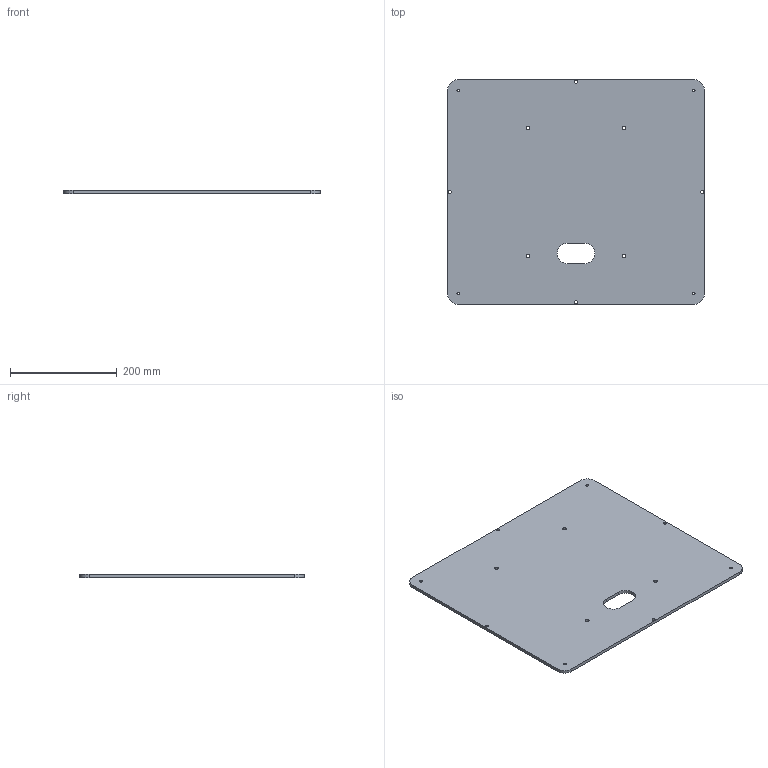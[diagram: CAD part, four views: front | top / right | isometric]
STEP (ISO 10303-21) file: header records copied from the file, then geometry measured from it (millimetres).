
FILE_DESCRIPTION(('Open CASCADE Model'),'2;1');
FILE_NAME('Open CASCADE Shape Model','2026-09-01T17:09:24',('Author'),( 'Open CASCADE'),'Open CASCADE STEP processor 7.9','Open CASCADE 7.9' ,'Unknown');
FILE_SCHEMA(('AUTOMOTIVE_DESIGN { 1 0 10303 214 1 1 1 1 }'));
Length unit declared in the file: millimetre
Products named in the file (1): Open CASCADE STEP translator 7.9 2
Bounding box: 480 x 420 x 6 mm (x, y, z)
Volume: 1191869.1 mm3; surface area: 410331.6 mm2
Topology: 1 solids, 1 shells, 26 faces, 72 edges, 48 vertices
Faces by surface type: cylinder 18, plane 8
Full cylindrical faces by diameter (mm): 5.5 x8, 6.6 x4
Entity records: 1938 total; most frequent: CARTESIAN_POINT 491, DIRECTION 266, ORIENTED_EDGE 144, PCURVE 144, DEFINITIONAL_REPRESENTATION 144, LINE 136, VECTOR 136, EDGE_CURVE 72
